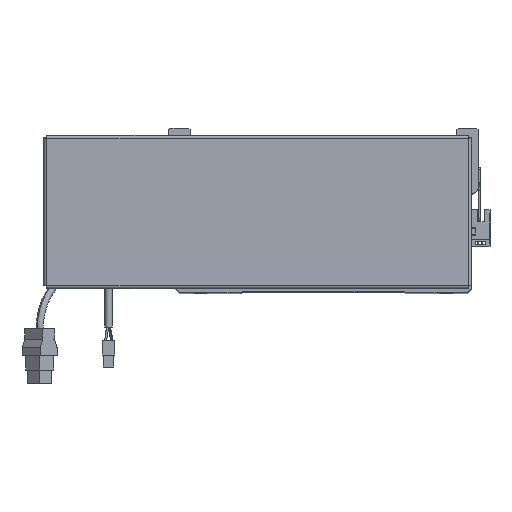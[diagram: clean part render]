
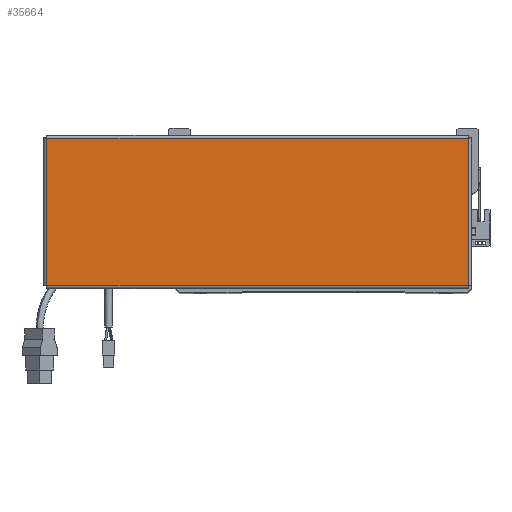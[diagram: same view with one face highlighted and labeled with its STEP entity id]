
A CAD part, top view. The second image highlights one B-rep face of the part: STEP entity #35664.
In plain terms, the highlighted planar face has unit normal (0, 0, 1).
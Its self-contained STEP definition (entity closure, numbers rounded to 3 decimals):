
#381 = DIRECTION ( 'NONE',  ( 0., 0., 1. ) ) ;
#4263 = DIRECTION ( 'NONE',  ( -1., 0., 0. ) ) ;
#8184 = EDGE_CURVE ( 'NONE', #47625, #10779, #19701, .T. ) ;
#8861 = EDGE_CURVE ( 'NONE', #10779, #52488, #39083, .T. ) ;
#10774 = CARTESIAN_POINT ( 'NONE',  ( 156.513, 54.763, 0. ) ) ;
#10779 = VERTEX_POINT ( 'NONE', #44367 ) ;
#12553 = LINE ( 'NONE', #29639, #55457 ) ;
#13903 = LINE ( 'NONE', #14904, #41942 ) ;
#14904 = CARTESIAN_POINT ( 'NONE',  ( 156.543, 54.763, 0. ) ) ;
#16359 = VERTEX_POINT ( 'NONE', #44775 ) ;
#19701 = LINE ( 'NONE', #46880, #37625 ) ;
#20713 = CARTESIAN_POINT ( 'NONE',  ( -156.513, -54.763, 0. ) ) ;
#21860 = EDGE_LOOP ( 'NONE', ( #35364, #53381, #25785, #58879 ) ) ;
#24851 = DIRECTION ( 'NONE',  ( 0., -1., 0. ) ) ;
#25431 = DIRECTION ( 'NONE',  ( 1., 0., 0. ) ) ;
#25785 = ORIENTED_EDGE ( 'NONE', *, *, #44380, .T. ) ;
#29476 = DIRECTION ( 'NONE',  ( 0., 1., 0. ) ) ;
#29639 = CARTESIAN_POINT ( 'NONE',  ( -156.513, 54.793, 0. ) ) ;
#35364 = ORIENTED_EDGE ( 'NONE', *, *, #8184, .T. ) ;
#35664 = ADVANCED_FACE ( 'NONE', ( #47295 ), #60086, .T. ) ;
#37317 = AXIS2_PLACEMENT_3D ( 'NONE', #45475, #381, #25431 ) ;
#37500 = VECTOR ( 'NONE', #29476, 1000. ) ;
#37625 = VECTOR ( 'NONE', #47307, 1000. ) ;
#39083 = LINE ( 'NONE', #39922, #37500 ) ;
#39922 = CARTESIAN_POINT ( 'NONE',  ( 156.513, -54.793, 0. ) ) ;
#41942 = VECTOR ( 'NONE', #4263, 1000. ) ;
#44367 = CARTESIAN_POINT ( 'NONE',  ( 156.513, -54.763, 0. ) ) ;
#44380 = EDGE_CURVE ( 'NONE', #52488, #16359, #13903, .T. ) ;
#44775 = CARTESIAN_POINT ( 'NONE',  ( -156.513, 54.763, 0. ) ) ;
#45475 = CARTESIAN_POINT ( 'NONE',  ( 0., 0., 0. ) ) ;
#46880 = CARTESIAN_POINT ( 'NONE',  ( -156.543, -54.763, 0. ) ) ;
#47295 = FACE_OUTER_BOUND ( 'NONE', #21860, .T. ) ;
#47307 = DIRECTION ( 'NONE',  ( 1., 0., 0. ) ) ;
#47625 = VERTEX_POINT ( 'NONE', #20713 ) ;
#52488 = VERTEX_POINT ( 'NONE', #10774 ) ;
#53381 = ORIENTED_EDGE ( 'NONE', *, *, #8861, .T. ) ;
#55457 = VECTOR ( 'NONE', #24851, 1000. ) ;
#58879 = ORIENTED_EDGE ( 'NONE', *, *, #62940, .T. ) ;
#60086 = PLANE ( 'NONE',  #37317 ) ;
#62940 = EDGE_CURVE ( 'NONE', #16359, #47625, #12553, .T. ) ;
